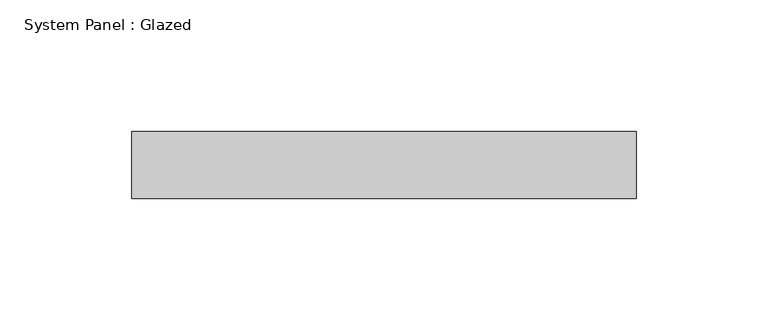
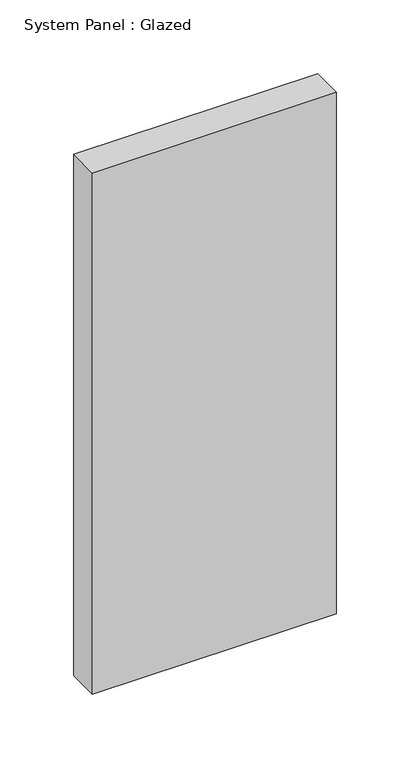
"""IFC4 building model written with IfcOpenShell, lengths in millimetres: plate geometry, System Panel : Glazed."""

import ifcopenshell
import ifcopenshell.guid

model = None  # the IFC model being written
_history = None  # IfcOwnerHistory: only IFC2X3 demands one
_inside = {}  # id of a spatial element -> (the spatial element, [elements in it])
_under = {}  # id of a project, library or spatial element -> (it, [spatial elements below it])
_declared = {}  # id of a project -> (the project, [libraries it declares])
_typed = {}  # id of a type object -> (the type object, [elements of that type])
_made_of = {}  # id of a material, layer set ... -> (it, [elements and type objects made of it])


def new_model(schema):
    """Start an empty IFC model of exactly this schema.

    Asked for "IFC4X3", IfcOpenShell would pick the latest addendum, in which some entities
    have other attributes; the version numbers below select the first issue.
    IFC2X3 requires an IfcOwnerHistory on every rooted entity: one is made here for all.
    """
    global model, _history
    if schema == "IFC4X3":
        model = ifcopenshell.file(schema_version=(4, 3, 0, 0))
    else:
        model = ifcopenshell.file(schema=schema)
    _inside.clear()
    _under.clear()
    _declared.clear()
    _typed.clear()
    _made_of.clear()
    _history = None
    if model.schema == "IFC2X3":
        org = make("IfcOrganization", Name="unknown")
        user = make(
            "IfcPersonAndOrganization",
            ThePerson=make("IfcPerson", FamilyName="unknown"),
            TheOrganization=org,
        )
        app = make(
            "IfcApplication",
            ApplicationDeveloper=org,
            Version="unknown",
            ApplicationFullName="unknown",
            ApplicationIdentifier="unknown",
        )
        _history = make(
            "IfcOwnerHistory",
            OwningUser=user,
            OwningApplication=app,
            ChangeAction="ADDED",
            CreationDate=0,
        )
    return model


def make(cls, **values):
    """One entity of the class cls with the attributes given. An attribute that is None is left unset."""
    return model.create_entity(
        cls, **{name: value for name, value in values.items() if value is not None}
    )


def rooted(cls, **values):
    """An entity with a GlobalId (a new one), such as an element, a storey or a relation."""
    return make(cls, GlobalId=ifcopenshell.guid.new(), OwnerHistory=_history, **values)


def si_unit(unit_type, name, prefix=None):
    """IfcSIUnit, for example si_unit("LENGTHUNIT", "METRE", prefix="MILLI")."""
    return make("IfcSIUnit", UnitType=unit_type, Prefix=prefix, Name=name)


def assignment(units):
    """IfcUnitAssignment: the units of a project."""
    return None if units is None else make("IfcUnitAssignment", Units=units)


def point(xyz):
    """IfcCartesianPoint."""
    return None if xyz is None else make("IfcCartesianPoint", Coordinates=xyz)


def direction(xyz):
    """IfcDirection."""
    return None if xyz is None else make("IfcDirection", DirectionRatios=xyz)


def frame(location, z_axis=None, x_axis=None):
    """IfcAxis2Placement3D, a coordinate frame: its origin and axes. An axis left out is left unset."""
    return make(
        "IfcAxis2Placement3D",
        Location=point(location),
        Axis=direction(z_axis),
        RefDirection=direction(x_axis),
    )


def origin():
    """The frame at (0, 0, 0) with its axes left unset."""
    return frame((0.0, 0.0, 0.0))


def origin_with_axes():
    """The frame at (0, 0, 0) with the z axis (0, 0, 1) and the x axis (1, 0, 0) written out."""
    return frame((0.0, 0.0, 0.0), z_axis=(0.0, 0.0, 1.0), x_axis=(1.0, 0.0, 0.0))


def place(relative_to, where):
    """IfcLocalPlacement: puts the frame where relative to a parent placement (None: the world)."""
    return make(
        "IfcLocalPlacement", PlacementRelTo=relative_to, RelativePlacement=where
    )


def context(
    kind, dimensions, precision=None, world=None, true_north=None, identifier=None
):
    """IfcGeometricRepresentationContext, for example the 3D "Model" context."""
    return make(
        "IfcGeometricRepresentationContext",
        ContextIdentifier=identifier,
        ContextType=kind,
        CoordinateSpaceDimension=dimensions,
        Precision=precision,
        WorldCoordinateSystem=world,
        TrueNorth=true_north,
    )


def project(units=None, contexts=None):
    """IfcProject with its units and contexts."""
    return rooted(
        "IfcProject",
        Name="project",
        RepresentationContexts=contexts,
        UnitsInContext=assignment(units),
    )


def spatial(cls, under=None, at=None, **own):
    """A site, building, storey or space (cls), placed at a placement, below another one or the project."""
    s = rooted(cls, ObjectPlacement=at, **own)
    if under is not None:
        _under.setdefault(under.id(), (under, []))[1].append(s)
    return s


def polyline(points):
    """IfcPolyline through the points."""
    return make("IfcPolyline", Points=[point(p) for p in points])


def outline(outer, holes=None, kind="AREA"):
    """IfcArbitraryClosedProfileDef: a profile drawn as a closed curve; with holes, ...WithVoids."""
    if holes is None:
        return make("IfcArbitraryClosedProfileDef", ProfileType=kind, OuterCurve=outer)
    return make(
        "IfcArbitraryProfileDefWithVoids",
        ProfileType=kind,
        OuterCurve=outer,
        InnerCurves=holes,
    )


def extrude(swept, where, along, depth):
    """IfcExtrudedAreaSolid: the profile swept, set in the frame where, extruded along a direction by depth."""
    return make(
        "IfcExtrudedAreaSolid",
        SweptArea=swept,
        Position=where,
        ExtrudedDirection=direction(along),
        Depth=depth,
    )


def shape(context_of_items, identifier, shape_type, items):
    """IfcShapeRepresentation: the items that make up one representation, for example the "Body"."""
    return make(
        "IfcShapeRepresentation",
        ContextOfItems=context_of_items,
        RepresentationIdentifier=identifier,
        RepresentationType=shape_type,
        Items=items,
    )


def source(mapping_origin, context_of_items, identifier, shape_type, items):
    """IfcRepresentationMap: a shape defined once, which mapped items show again and again."""
    return make(
        "IfcRepresentationMap",
        MappingOrigin=mapping_origin,
        MappedRepresentation=shape(context_of_items, identifier, shape_type, items),
    )


def transform(
    local_origin,
    x_axis=None,
    y_axis=None,
    z_axis=None,
    scale=None,
    scale2=None,
    scale3=None,
    uniform=True,
):
    """IfcCartesianTransformationOperator3D, or its non-uniform kind. x_axis, y_axis, z_axis: its Axis1, 2, 3."""
    if uniform:
        return make(
            "IfcCartesianTransformationOperator3D",
            Axis1=direction(x_axis),
            Axis2=direction(y_axis),
            LocalOrigin=point(local_origin),
            Scale=scale,
            Axis3=direction(z_axis),
        )
    return make(
        "IfcCartesianTransformationOperator3DnonUniform",
        Axis1=direction(x_axis),
        Axis2=direction(y_axis),
        LocalOrigin=point(local_origin),
        Scale=scale,
        Axis3=direction(z_axis),
        Scale2=scale2,
        Scale3=scale3,
    )


def mapped(mapping_source, mapping_target):
    """IfcMappedItem: shows the shape of a source again, moved by a transform."""
    return make(
        "IfcMappedItem", MappingSource=mapping_source, MappingTarget=mapping_target
    )


def made_of(thing, what):
    """Note that an element or type object is made of a material, layer set ...; save() writes the relation."""
    if what is not None:
        _made_of.setdefault(what.id(), (what, []))[1].append(thing)
    return thing


def element(
    cls,
    number,
    at=None,
    inside=None,
    cuts=None,
    type_object=None,
    material=None,
    context=None,
    identifier="Body",
    shape_type=None,
    held_by="IfcProductDefinitionShape",
    body=None,
    shapes=None,
    **own,
):
    """One element of the class cls, such as IfcWall. Its Tag is "e" and its number.

    at: its placement. inside: the storey or other place that contains it. cuts: it is an
    opening in that element (IfcRelVoidsElement). A single representation is given by context,
    identifier, shape_type and body (its items); several are given by shapes. held_by: the class
    of the entity that holds the representations. save() writes the other relations.
    """
    e = rooted(cls, Tag="e%d" % number, ObjectPlacement=at, **own)
    if body is not None:
        shapes = [shape(context, identifier, shape_type, body)]
    if shapes is not None:
        e.Representation = make(held_by, Representations=shapes)
    if inside is not None:
        _inside.setdefault(inside.id(), (inside, []))[1].append(e)
    if cuts is not None:
        rooted(
            "IfcRelVoidsElement", RelatingBuildingElement=cuts, RelatedOpeningElement=e
        )
    if type_object is not None:
        _typed.setdefault(type_object.id(), (type_object, []))[1].append(e)
    return made_of(e, material)


def aggregate(whole, parts):
    """IfcRelAggregates: a whole, such as a stair, and the parts it consists of."""
    return rooted("IfcRelAggregates", RelatingObject=whole, RelatedObjects=parts)


def save(model, path):
    """Write the relations noted so far, then the file.

    IfcRelAggregates (storeys below a building ...), IfcRelContainedInSpatialStructure (elements
    in a storey), IfcRelDefinesByType, IfcRelAssociatesMaterial and IfcRelDeclares: one each for
    every whole, place, type object, material and project.
    """
    for whole, parts in _under.values():
        aggregate(whole, parts)
    for where, things in _inside.values():
        rooted(
            "IfcRelContainedInSpatialStructure",
            RelatedElements=things,
            RelatingStructure=where,
        )
    for kind, things in _typed.values():
        rooted("IfcRelDefinesByType", RelatedObjects=things, RelatingType=kind)
    for what, things in _made_of.values():
        rooted("IfcRelAssociatesMaterial", RelatedObjects=things, RelatingMaterial=what)
    for by, libraries in _declared.values():
        rooted("IfcRelDeclares", RelatingContext=by, RelatedDefinitions=libraries)
    model.write(path)


def system_panel_glazed_79403728(model_context):
    return source(origin(), model_context, "Body", "SweptSolid", [
        extrude(outline(polyline([(95.5183901, -44.45), (-95.5183901, -44.45), (-95.5183901, -19.05), (95.5183901, -19.05), (95.5183901, -44.45)])), origin_with_axes(), (0.0, 0.0, 1.0), 431.8),
    ])


if __name__ == "__main__":
    model = new_model("IFC4")
    model_context = context("Model", 3, world=origin())
    ifc_project = project(units=[si_unit("LENGTHUNIT", "METRE", prefix="MILLI")], contexts=[model_context])
    site = spatial("IfcSite", under=ifc_project)
    building = spatial("IfcBuilding", under=site)
    placement = place(None, origin())
    system_panel_glazed_shape = system_panel_glazed_79403728(model_context)
    element("IfcPlate", 1, ObjectType="System Panel : Glazed", at=placement, inside=building, context=model_context, shape_type="MappedRepresentation", body=[
        mapped(system_panel_glazed_shape, transform((0.0, 0.0, 0.0), x_axis=(1.0, 0.0, 0.0), y_axis=(0.0, 1.0, 0.0), z_axis=(0.0, 0.0, 1.0))),
    ])
    save(model, "model.ifc")
